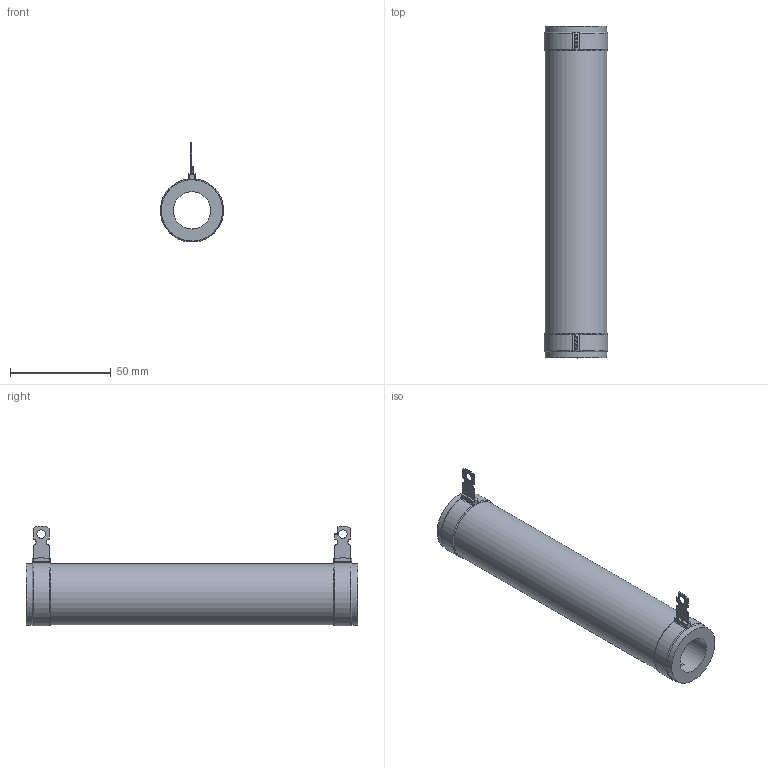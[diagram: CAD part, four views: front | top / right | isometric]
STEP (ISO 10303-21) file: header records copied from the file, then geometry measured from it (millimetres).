
FILE_DESCRIPTION(/* description */ (''),/* implementation_level */ '2;1');
FILE_NAME(/* name */ 'C:\_Vault\Dati\CATALOGO\RCA-RSA\25-1000\CA0150.stp',/* time_stamp */ '2014-01-22T15:05:57+01:00',/* author */ ('stefano'),/* organization */ (''),/* preprocessor_version */ 'ST-DEVELOPER v15.2',/* originating_system */ 'Autodesk Inventor 2014',/* authorisation */ '');
FILE_SCHEMA (('AUTOMOTIVE_DESIGN { 1 0 10303 214 3 1 1 }'));
Length unit declared in the file: millimetre
Products named in the file (1): CA0150
Bounding box: 31.43 x 165 x 49.69 mm (x, y, z)
Volume: 77306.1 mm3; surface area: 27148.4 mm2
Topology: 1 solids, 1 shells, 81 faces, 196 edges, 122 vertices
Faces by surface type: plane 38, cylinder 31, torus 12
Full cylindrical faces by diameter (mm): 4.2 x2, 18.5 x1, 30.5 x3
Entity records: 2516 total; most frequent: CARTESIAN_POINT 462, DIRECTION 428, ORIENTED_EDGE 376, EDGE_CURVE 188, AXIS2_PLACEMENT_3D 166, VERTEX_POINT 120, EDGE_LOOP 98, LINE 96
